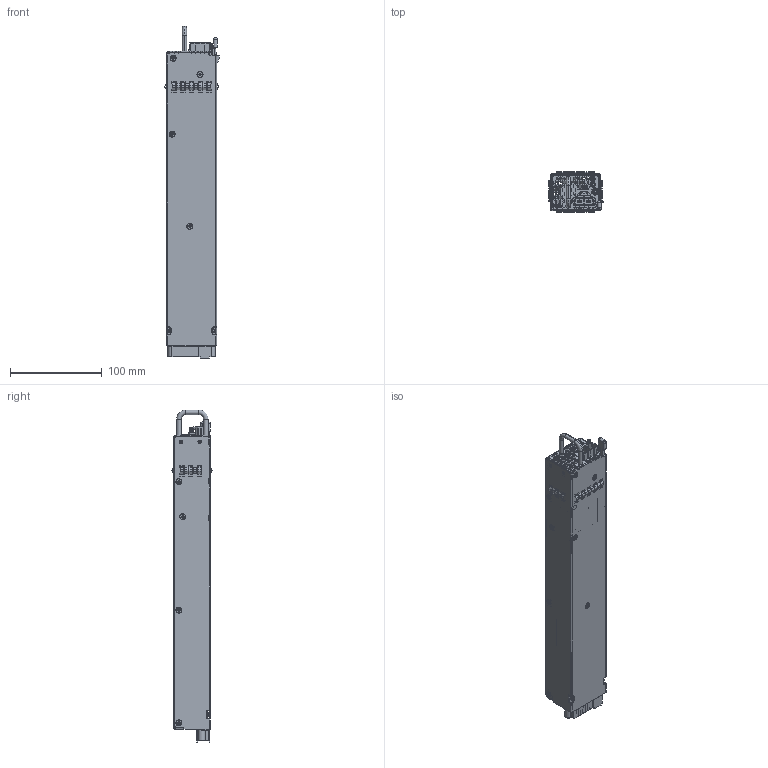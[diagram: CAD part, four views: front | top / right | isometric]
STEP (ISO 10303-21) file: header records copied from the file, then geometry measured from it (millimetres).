
FILE_DESCRIPTION((''),'2;1');
FILE_NAME('ASSY_PSU_DS1100TPE_SL_SW0002','2017-08-18T',('JasonIrvingRombaoa'),(''),'CREO PARAMETRIC BY PTC INC, 2015380','CREO PARAMETRIC BY PTC INC, 2015380','');
FILE_SCHEMA(('CONFIG_CONTROL_DESIGN'));
Products named in the file (1): ASSY_PSU_DS1100TPE_SL_SW0002
Bounding box: 59.28 x 43.76 x 362.7 mm (x, y, z)
Volume: 85857.5 mm3; surface area: 269309 mm2
Topology: 8 solids, 9 shells, 7103 faces, 20267 edges, 13051 vertices
Faces by surface type: plane 5143, cylinder 1294, cone 276, bspline 207, extrusion 112, torus 62, sphere 9
Entity records: 344584 total; most frequent: CARTESIAN_POINT 60259, ORIENTED_EDGE 40476, DIRECTION 36007, PRESENTATION_STYLE_ASSIGNMENT 25655, STYLED_ITEM 20359, CURVE_STYLE 20350, EDGE_CURVE 20238, VECTOR 15407
